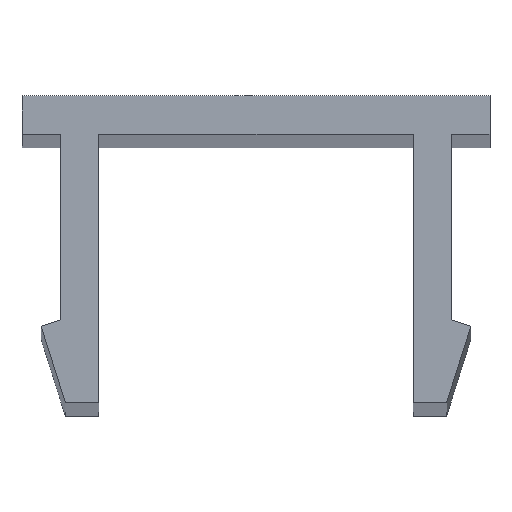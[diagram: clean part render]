
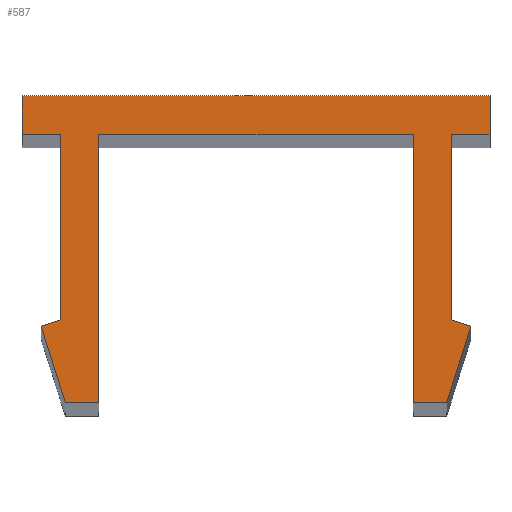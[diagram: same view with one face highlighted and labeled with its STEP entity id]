
A CAD part, top view. The second image highlights one B-rep face of the part: STEP entity #587.
In plain terms, the highlighted planar face has unit normal (0, 0, 1).
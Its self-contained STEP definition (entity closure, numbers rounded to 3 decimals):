
#59=CARTESIAN_POINT('',(-18.959,7.986,200.0));
#60=VERTEX_POINT('',#59);
#67=CARTESIAN_POINT('',(-18.459,8.144,200.0));
#68=VERTEX_POINT('',#67);
#69=CARTESIAN_POINT('',(-18.959,7.986,200.0));
#70=DIRECTION('',(0.954,0.301,0.0));
#71=VECTOR('',#70,0.524);
#72=LINE('',#69,#71);
#73=EDGE_CURVE('',#60,#68,#72,.T.);
#99=CARTESIAN_POINT('',(-8.259,8.144,200.0));
#100=VERTEX_POINT('',#99);
#107=CARTESIAN_POINT('',(-7.759,7.986,200.0));
#108=VERTEX_POINT('',#107);
#109=CARTESIAN_POINT('',(-8.259,8.144,200.0));
#110=DIRECTION('',(0.954,-0.301,0.0));
#111=VECTOR('',#110,0.524);
#112=LINE('',#109,#111);
#113=EDGE_CURVE('',#100,#108,#112,.T.);
#138=CARTESIAN_POINT('',(-8.259,12.986,200.0));
#139=VERTEX_POINT('',#138);
#146=CARTESIAN_POINT('',(-8.259,12.986,200.0));
#147=DIRECTION('',(0.0,-1.0,0.0));
#148=VECTOR('',#147,4.842);
#149=LINE('',#146,#148);
#150=EDGE_CURVE('',#139,#100,#149,.T.);
#162=CARTESIAN_POINT('',(-18.459,12.986,200.0));
#163=VERTEX_POINT('',#162);
#170=CARTESIAN_POINT('',(-19.459,12.986,200.0));
#171=VERTEX_POINT('',#170);
#172=CARTESIAN_POINT('',(-18.459,12.986,200.0));
#173=DIRECTION('',(-1.0,0.0,0.0));
#174=VECTOR('',#173,1.0);
#175=LINE('',#172,#174);
#176=EDGE_CURVE('',#163,#171,#175,.T.);
#202=CARTESIAN_POINT('',(-9.259,12.986,200.0));
#203=VERTEX_POINT('',#202);
#210=CARTESIAN_POINT('',(-17.459,12.986,200.0));
#211=VERTEX_POINT('',#210);
#212=CARTESIAN_POINT('',(-9.259,12.986,200.0));
#213=DIRECTION('',(-1.0,0.0,0.0));
#214=VECTOR('',#213,8.2);
#215=LINE('',#212,#214);
#216=EDGE_CURVE('',#203,#211,#215,.T.);
#249=CARTESIAN_POINT('',(-7.259,12.986,200.0));
#250=VERTEX_POINT('',#249);
#257=CARTESIAN_POINT('',(-7.259,12.986,200.0));
#258=DIRECTION('',(-1.0,0.0,0.0));
#259=VECTOR('',#258,1.);
#260=LINE('',#257,#259);
#261=EDGE_CURVE('',#250,#139,#260,.T.);
#271=CARTESIAN_POINT('',(-19.459,13.986,200.0));
#272=VERTEX_POINT('',#271);
#273=CARTESIAN_POINT('',(-7.259,13.986,200.0));
#274=VERTEX_POINT('',#273);
#275=CARTESIAN_POINT('',(-19.459,13.986,200.0));
#276=DIRECTION('',(1.0,0.0,0.0));
#277=VECTOR('',#276,12.2);
#278=LINE('',#275,#277);
#279=EDGE_CURVE('',#272,#274,#278,.T.);
#311=CARTESIAN_POINT('',(-7.259,13.986,200.0));
#312=DIRECTION('',(0.0,-1.0,0.0));
#313=VECTOR('',#312,1.);
#314=LINE('',#311,#313);
#315=EDGE_CURVE('',#274,#250,#314,.T.);
#333=CARTESIAN_POINT('',(-19.459,12.986,200.0));
#334=DIRECTION('',(0.0,1.0,0.0));
#335=VECTOR('',#334,1.);
#336=LINE('',#333,#335);
#337=EDGE_CURVE('',#171,#272,#336,.T.);
#356=CARTESIAN_POINT('',(-18.459,8.144,200.0));
#357=DIRECTION('',(0.0,1.0,0.0));
#358=VECTOR('',#357,4.842);
#359=LINE('',#356,#358);
#360=EDGE_CURVE('',#68,#163,#359,.T.);
#377=CARTESIAN_POINT('',(-17.459,5.986,200.0));
#378=VERTEX_POINT('',#377);
#379=CARTESIAN_POINT('',(-17.459,12.986,200.0));
#380=DIRECTION('',(0.0,-1.0,0.0));
#381=VECTOR('',#380,7.);
#382=LINE('',#379,#381);
#383=EDGE_CURVE('',#211,#378,#382,.T.);
#408=CARTESIAN_POINT('',(-18.329,5.986,200.0));
#409=VERTEX_POINT('',#408);
#410=CARTESIAN_POINT('',(-17.459,5.986,200.0));
#411=DIRECTION('',(-1.0,0.0,0.0));
#412=VECTOR('',#411,0.869);
#413=LINE('',#410,#412);
#414=EDGE_CURVE('',#378,#409,#413,.T.);
#439=CARTESIAN_POINT('',(-18.329,5.986,200.0));
#440=DIRECTION('',(-0.301,0.954,0.0));
#441=VECTOR('',#440,2.097);
#442=LINE('',#439,#441);
#443=EDGE_CURVE('',#409,#60,#442,.T.);
#461=CARTESIAN_POINT('',(-8.39,5.986,200.0));
#462=VERTEX_POINT('',#461);
#463=CARTESIAN_POINT('',(-9.259,5.986,200.0));
#464=VERTEX_POINT('',#463);
#465=CARTESIAN_POINT('',(-8.39,5.986,200.0));
#466=DIRECTION('',(-1.0,0.0,0.0));
#467=VECTOR('',#466,0.869);
#468=LINE('',#465,#467);
#469=EDGE_CURVE('',#462,#464,#468,.T.);
#501=CARTESIAN_POINT('',(-9.259,5.986,200.0));
#502=DIRECTION('',(0.0,1.0,0.0));
#503=VECTOR('',#502,7.);
#504=LINE('',#501,#503);
#505=EDGE_CURVE('',#464,#203,#504,.T.);
#523=CARTESIAN_POINT('',(-7.759,7.986,200.0));
#524=DIRECTION('',(-0.301,-0.954,0.0));
#525=VECTOR('',#524,2.097);
#526=LINE('',#523,#525);
#527=EDGE_CURVE('',#108,#462,#526,.T.);
#564=CARTESIAN_POINT('',(-8.115,7.299,200.0));
#565=DIRECTION('',(0.0,0.0,1.0));
#566=DIRECTION('',(1.0,0.0,0.0));
#567=AXIS2_PLACEMENT_3D('',#564,#565,#566);
#568=PLANE('',#567);
#569=ORIENTED_EDGE('',*,*,#527,.F.);
#570=ORIENTED_EDGE('',*,*,#113,.F.);
#571=ORIENTED_EDGE('',*,*,#150,.F.);
#572=ORIENTED_EDGE('',*,*,#261,.F.);
#573=ORIENTED_EDGE('',*,*,#315,.F.);
#574=ORIENTED_EDGE('',*,*,#279,.F.);
#575=ORIENTED_EDGE('',*,*,#337,.F.);
#576=ORIENTED_EDGE('',*,*,#176,.F.);
#577=ORIENTED_EDGE('',*,*,#360,.F.);
#578=ORIENTED_EDGE('',*,*,#73,.F.);
#579=ORIENTED_EDGE('',*,*,#443,.F.);
#580=ORIENTED_EDGE('',*,*,#414,.F.);
#581=ORIENTED_EDGE('',*,*,#383,.F.);
#582=ORIENTED_EDGE('',*,*,#216,.F.);
#583=ORIENTED_EDGE('',*,*,#505,.F.);
#584=ORIENTED_EDGE('',*,*,#469,.F.);
#585=EDGE_LOOP('',(#569,#570,#571,#572,#573,#574,#575,#576,#577,#578,#579,#580,#581,#582,#583,#584));
#586=FACE_OUTER_BOUND('',#585,.T.);
#587=ADVANCED_FACE('',(#586),#568,.T.);
